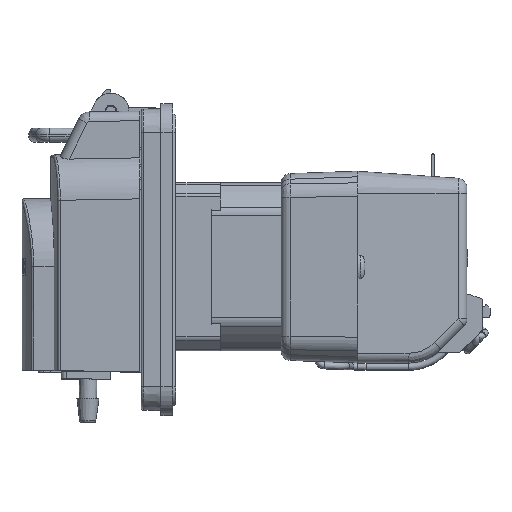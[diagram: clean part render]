
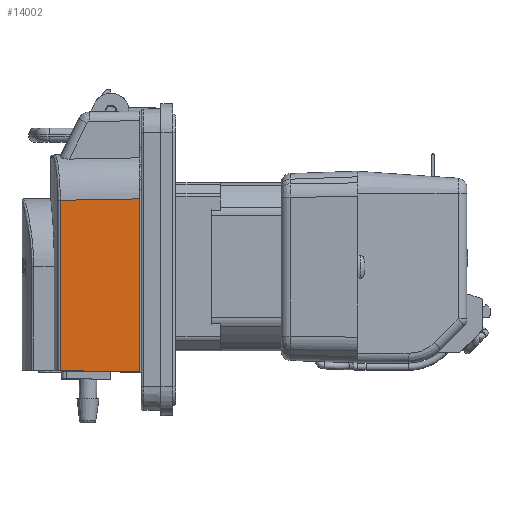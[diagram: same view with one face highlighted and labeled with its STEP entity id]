
A CAD part, top view. The second image highlights one B-rep face of the part: STEP entity #14002.
In plain terms, the highlighted planar face has unit normal (-0.018, 0, 1) as drawn and (0.017, 1, 0) by its records, which use the part's own axes.
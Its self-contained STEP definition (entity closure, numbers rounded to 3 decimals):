
#3567 = CARTESIAN_POINT ( 'NONE',  ( 3.73, 20.789, 14.108 ) ) ;
#3611 = CARTESIAN_POINT ( 'NONE',  ( 3.1, 20.8, -22. ) ) ;
#6995 = VERTEX_POINT ( 'NONE', #54167 ) ;
#7416 = DIRECTION ( 'NONE',  ( 0., 0., -1. ) ) ;
#10471 = DIRECTION ( 'NONE',  ( 0., 0., 1. ) ) ;
#13876 = ORIENTED_EDGE ( 'NONE', *, *, #69818, .T. ) ;
#14002 = ADVANCED_FACE ( 'NONE', ( #80916 ), #43241, .T. ) ;
#20217 = CARTESIAN_POINT ( 'NONE',  ( 3.155, 20.799, -21.999 ) ) ;
#23560 = VERTEX_POINT ( 'NONE', #92525 ) ;
#35192 = EDGE_CURVE ( 'NONE', #78254, #23560, #44690, .T. ) ;
#35259 = VECTOR ( 'NONE', #7416, 1000. ) ;
#38197 = VECTOR ( 'NONE', #50136, 1000. ) ;
#43241 = PLANE ( 'NONE',  #58041 ) ;
#44690 = LINE ( 'NONE', #74559, #35259 ) ;
#46330 = VECTOR ( 'NONE', #10471, 1000. ) ;
#47141 = EDGE_CURVE ( 'NONE', #23560, #6995, #57955, .T. ) ;
#48674 = ORIENTED_EDGE ( 'NONE', *, *, #47141, .T. ) ;
#50099 = LINE ( 'NONE', #3567, #66333 ) ;
#50136 = DIRECTION ( 'NONE',  ( -1., 0.017, -0.017 ) ) ;
#54167 = CARTESIAN_POINT ( 'NONE',  ( 3.1, 20.8, -22. ) ) ;
#55071 = LINE ( 'NONE', #3611, #46330 ) ;
#57955 = LINE ( 'NONE', #20217, #38197 ) ;
#58041 = AXIS2_PLACEMENT_3D ( 'NONE', #88744, #73113, #58402 ) ;
#58402 = DIRECTION ( 'NONE',  ( 0., 0., -1. ) ) ;
#61236 = EDGE_LOOP ( 'NONE', ( #74708, #79627, #48674, #13876 ) ) ;
#61542 = CARTESIAN_POINT ( 'NONE',  ( 3.1, 20.8, 14.119 ) ) ;
#66333 = VECTOR ( 'NONE', #71663, 1000. ) ;
#68573 = VERTEX_POINT ( 'NONE', #61542 ) ;
#69818 = EDGE_CURVE ( 'NONE', #6995, #68573, #55071, .T. ) ;
#71663 = DIRECTION ( 'NONE',  ( 1., -0.017, -0.017 ) ) ;
#73113 = DIRECTION ( 'NONE',  ( 0.017, 1., 0. ) ) ;
#74559 = CARTESIAN_POINT ( 'NONE',  ( 19.723, 20.51, -21.702 ) ) ;
#74708 = ORIENTED_EDGE ( 'NONE', *, *, #94924, .T. ) ;
#78254 = VERTEX_POINT ( 'NONE', #86022 ) ;
#79627 = ORIENTED_EDGE ( 'NONE', *, *, #35192, .T. ) ;
#80916 = FACE_OUTER_BOUND ( 'NONE', #61236, .T. ) ;
#86022 = CARTESIAN_POINT ( 'NONE',  ( 19.723, 20.51, 13.829 ) ) ;
#88744 = CARTESIAN_POINT ( 'NONE',  ( 3.1, 20.8, -22. ) ) ;
#92525 = CARTESIAN_POINT ( 'NONE',  ( 19.723, 20.51, -21.71 ) ) ;
#94924 = EDGE_CURVE ( 'NONE', #68573, #78254, #50099, .T. ) ;
